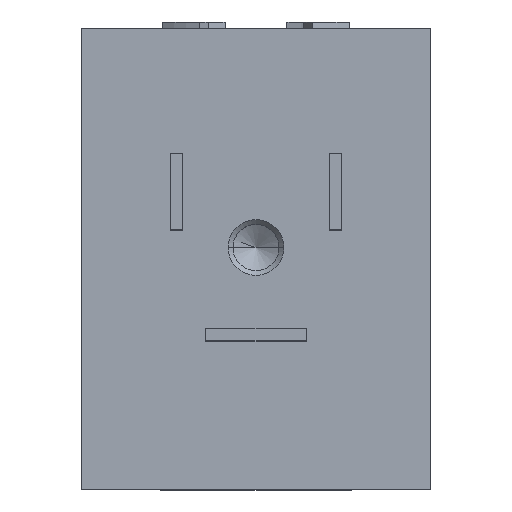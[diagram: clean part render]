
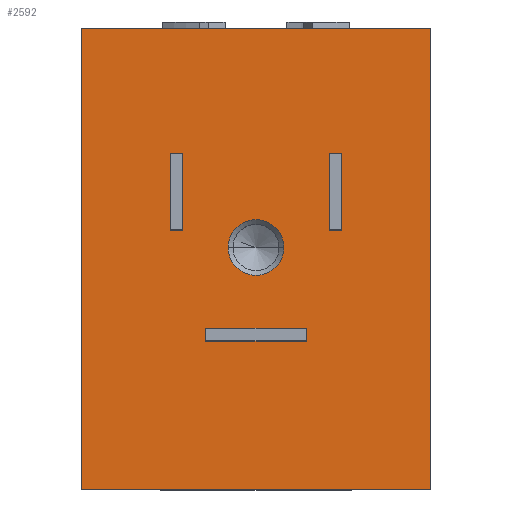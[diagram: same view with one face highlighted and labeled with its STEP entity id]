
A CAD part, top view. The second image highlights one B-rep face of the part: STEP entity #2592.
In plain terms, the highlighted planar face has unit normal (0, 0, 1).
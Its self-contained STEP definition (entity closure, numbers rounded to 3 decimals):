
#18=DIRECTION('',(0.,-1.,0.));
#19=VECTOR('',#18,29.);
#20=CARTESIAN_POINT('',(-11.,13.8,14.75));
#21=LINE('',#20,#19);
#26=DIRECTION('',(-1.,0.,0.));
#27=VECTOR('',#26,22.);
#28=CARTESIAN_POINT('',(11.,13.8,14.75));
#29=LINE('',#28,#27);
#33=DIRECTION('',(0.,1.,0.));
#34=VECTOR('',#33,29.);
#35=CARTESIAN_POINT('',(11.,-15.2,14.75));
#36=LINE('',#35,#34);
#40=DIRECTION('',(1.,0.,0.));
#41=VECTOR('',#40,22.);
#42=CARTESIAN_POINT('',(-11.,-15.2,14.75));
#43=LINE('',#42,#41);
#47=CARTESIAN_POINT('',(0.,0.,14.75));
#48=DIRECTION('',(0.,0.,1.));
#49=DIRECTION('',(-1.,0.,0.));
#50=AXIS2_PLACEMENT_3D('',#47,#48,#49);
#55=CARTESIAN_POINT('',(0.,0.,14.75));
#56=DIRECTION('',(0.,0.,1.));
#57=DIRECTION('',(1.,0.,0.));
#58=AXIS2_PLACEMENT_3D('',#55,#56,#57);
#63=DIRECTION('',(0.,-1.,0.));
#64=VECTOR('',#63,0.8);
#65=CARTESIAN_POINT('',(-3.15,-5.1,14.75));
#66=LINE('',#65,#64);
#70=DIRECTION('',(1.,0.,0.));
#71=VECTOR('',#70,6.3);
#72=CARTESIAN_POINT('',(-3.15,-5.9,14.75));
#73=LINE('',#72,#71);
#77=DIRECTION('',(0.,1.,0.));
#78=VECTOR('',#77,0.8);
#79=CARTESIAN_POINT('',(3.15,-5.9,14.75));
#80=LINE('',#79,#78);
#84=DIRECTION('',(-1.,0.,0.));
#85=VECTOR('',#84,6.3);
#86=CARTESIAN_POINT('',(3.15,-5.1,14.75));
#87=LINE('',#86,#85);
#91=DIRECTION('',(0.,-1.,0.));
#92=VECTOR('',#91,4.8);
#93=CARTESIAN_POINT('',(4.6,5.9,14.75));
#94=LINE('',#93,#92);
#98=DIRECTION('',(-1.,0.,0.));
#99=VECTOR('',#98,0.8);
#100=CARTESIAN_POINT('',(5.4,1.1,14.75));
#101=LINE('',#100,#99);
#105=DIRECTION('',(0.,1.,0.));
#106=VECTOR('',#105,4.8);
#107=CARTESIAN_POINT('',(5.4,1.1,14.75));
#108=LINE('',#107,#106);
#112=DIRECTION('',(1.,0.,0.));
#113=VECTOR('',#112,0.8);
#114=CARTESIAN_POINT('',(4.6,5.9,14.75));
#115=LINE('',#114,#113);
#119=DIRECTION('',(0.,-1.,0.));
#120=VECTOR('',#119,4.8);
#121=CARTESIAN_POINT('',(-5.4,5.9,14.75));
#122=LINE('',#121,#120);
#126=DIRECTION('',(-1.,0.,0.));
#127=VECTOR('',#126,0.8);
#128=CARTESIAN_POINT('',(-4.6,1.1,14.75));
#129=LINE('',#128,#127);
#133=DIRECTION('',(0.,1.,0.));
#134=VECTOR('',#133,4.8);
#135=CARTESIAN_POINT('',(-4.6,1.1,14.75));
#136=LINE('',#135,#134);
#140=DIRECTION('',(1.,0.,0.));
#141=VECTOR('',#140,0.8);
#142=CARTESIAN_POINT('',(-5.4,5.9,14.75));
#143=LINE('',#142,#141);
#2151=CARTESIAN_POINT('',(-11.,13.8,14.75));
#2152=CARTESIAN_POINT('',(-11.,-15.2,14.75));
#2153=VERTEX_POINT('',#2151);
#2154=VERTEX_POINT('',#2152);
#2155=CARTESIAN_POINT('',(11.,-15.2,14.75));
#2156=VERTEX_POINT('',#2155);
#2157=CARTESIAN_POINT('',(11.,13.8,14.75));
#2158=VERTEX_POINT('',#2157);
#2183=CARTESIAN_POINT('',(-3.15,-5.1,14.75));
#2184=CARTESIAN_POINT('',(-3.15,-5.9,14.75));
#2185=VERTEX_POINT('',#2183);
#2186=VERTEX_POINT('',#2184);
#2187=CARTESIAN_POINT('',(3.15,-5.9,14.75));
#2188=VERTEX_POINT('',#2187);
#2189=CARTESIAN_POINT('',(3.15,-5.1,14.75));
#2190=VERTEX_POINT('',#2189);
#2201=CARTESIAN_POINT('',(-1.75,0.,14.75));
#2202=CARTESIAN_POINT('',(1.75,0.,14.75));
#2203=VERTEX_POINT('',#2201);
#2204=VERTEX_POINT('',#2202);
#2253=CARTESIAN_POINT('',(4.6,5.9,14.75));
#2254=VERTEX_POINT('',#2253);
#2255=CARTESIAN_POINT('',(4.6,1.1,14.75));
#2256=VERTEX_POINT('',#2255);
#2257=CARTESIAN_POINT('',(5.4,1.1,14.75));
#2258=VERTEX_POINT('',#2257);
#2259=CARTESIAN_POINT('',(5.4,5.9,14.75));
#2260=VERTEX_POINT('',#2259);
#2261=CARTESIAN_POINT('',(-5.4,5.9,14.75));
#2262=VERTEX_POINT('',#2261);
#2263=CARTESIAN_POINT('',(-5.4,1.1,14.75));
#2264=VERTEX_POINT('',#2263);
#2265=CARTESIAN_POINT('',(-4.6,5.9,14.75));
#2266=VERTEX_POINT('',#2265);
#2267=CARTESIAN_POINT('',(-4.6,1.1,14.75));
#2268=VERTEX_POINT('',#2267);
#2541=CARTESIAN_POINT('',(0.,0.,14.75));
#2542=DIRECTION('',(0.,0.,1.));
#2543=DIRECTION('',(1.,0.,0.));
#2544=AXIS2_PLACEMENT_3D('',#2541,#2542,#2543);
#2545=PLANE('',#2544);
#2547=ORIENTED_EDGE('',*,*,#2546,.F.);
#2549=ORIENTED_EDGE('',*,*,#2548,.F.);
#2551=ORIENTED_EDGE('',*,*,#2550,.F.);
#2553=ORIENTED_EDGE('',*,*,#2552,.F.);
#2554=EDGE_LOOP('',(#2547,#2549,#2551,#2553));
#2555=FACE_OUTER_BOUND('',#2554,.F.);
#2557=ORIENTED_EDGE('',*,*,#2556,.T.);
#2559=ORIENTED_EDGE('',*,*,#2558,.T.);
#2560=EDGE_LOOP('',(#2557,#2559));
#2561=FACE_BOUND('',#2560,.F.);
#2563=ORIENTED_EDGE('',*,*,#2562,.T.);
#2565=ORIENTED_EDGE('',*,*,#2564,.T.);
#2567=ORIENTED_EDGE('',*,*,#2566,.T.);
#2569=ORIENTED_EDGE('',*,*,#2568,.T.);
#2570=EDGE_LOOP('',(#2563,#2565,#2567,#2569));
#2571=FACE_BOUND('',#2570,.F.);
#2573=ORIENTED_EDGE('',*,*,#2572,.T.);
#2575=ORIENTED_EDGE('',*,*,#2574,.F.);
#2577=ORIENTED_EDGE('',*,*,#2576,.T.);
#2579=ORIENTED_EDGE('',*,*,#2578,.F.);
#2580=EDGE_LOOP('',(#2573,#2575,#2577,#2579));
#2581=FACE_BOUND('',#2580,.F.);
#2583=ORIENTED_EDGE('',*,*,#2582,.T.);
#2585=ORIENTED_EDGE('',*,*,#2584,.F.);
#2587=ORIENTED_EDGE('',*,*,#2586,.T.);
#2589=ORIENTED_EDGE('',*,*,#2588,.F.);
#2590=EDGE_LOOP('',(#2583,#2585,#2587,#2589));
#2591=FACE_BOUND('',#2590,.F.);
#2592=ADVANCED_FACE('',(#2555,#2561,#2571,#2581,#2591),#2545,.T.);
#51=CIRCLE('',#50,1.75);
#59=CIRCLE('',#58,1.75);
#2546=EDGE_CURVE('',#2153,#2154,#21,.T.);
#2548=EDGE_CURVE('',#2158,#2153,#29,.T.);
#2550=EDGE_CURVE('',#2156,#2158,#36,.T.);
#2552=EDGE_CURVE('',#2154,#2156,#43,.T.);
#2556=EDGE_CURVE('',#2203,#2204,#51,.T.);
#2558=EDGE_CURVE('',#2204,#2203,#59,.T.);
#2562=EDGE_CURVE('',#2185,#2186,#66,.T.);
#2564=EDGE_CURVE('',#2186,#2188,#73,.T.);
#2566=EDGE_CURVE('',#2188,#2190,#80,.T.);
#2568=EDGE_CURVE('',#2190,#2185,#87,.T.);
#2572=EDGE_CURVE('',#2254,#2256,#94,.T.);
#2574=EDGE_CURVE('',#2258,#2256,#101,.T.);
#2576=EDGE_CURVE('',#2258,#2260,#108,.T.);
#2578=EDGE_CURVE('',#2254,#2260,#115,.T.);
#2582=EDGE_CURVE('',#2262,#2264,#122,.T.);
#2584=EDGE_CURVE('',#2268,#2264,#129,.T.);
#2586=EDGE_CURVE('',#2268,#2266,#136,.T.);
#2588=EDGE_CURVE('',#2262,#2266,#143,.T.);
